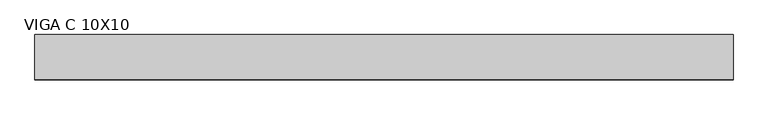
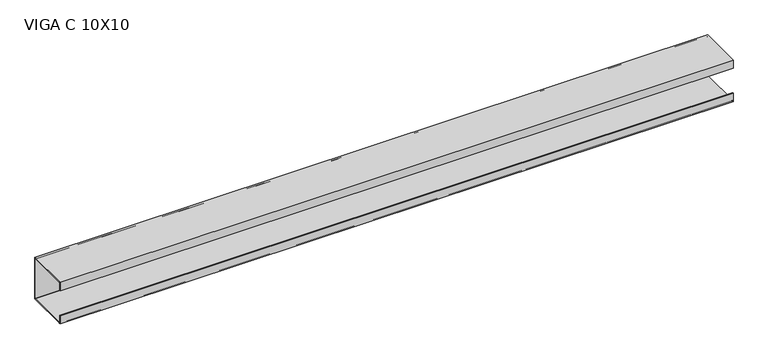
"""IFC4 building model written with IfcOpenShell, lengths in millimetres: beam geometry, VIGA PERFIL C AÇO : VIGA C 10X10."""

from ifc_helpers import new_model, si_unit, point, frame, frame_2d, origin, place, context, project, spatial, polyline, circle_curve, trimmed, segment, composite_curve, outline, extrude, source, transform, mapped, element, save


def viga_c_10x10_cf55ce63(model_context):
    return source(origin(), model_context, "Body", "SweptSolid", [
        extrude(outline(polyline([(9.2, -50.0), (-90.8, -50.0), (-90.8, -30.0), (-88.9, -30.0), (-88.9, -48.1), (7.3, -48.1), (7.3, 48.1), (-88.9, 48.1), (-88.9, 30.0), (-90.8, 30.0), (-90.8, 50.0), (9.2, 50.0), (9.2, -50.0)])), frame((-741.0, 0.0, 0.0), z_axis=(1.0, 0.0, 0.0), x_axis=(0.0, 1.0, 0.0)), (0.0, 0.0, 1.0), 1533.0),
        extrude(outline(composite_curve([segment(trimmed(circle_curve(frame_2d((5.4, -46.2)), 3.8), [point((9.2, -46.2))], [point((5.4, -50.0))], False, "CARTESIAN"), True, "CONTINUOUS"), segment(polyline([(5.4, -50.0), (-87.0, -50.0)]), True, "CONTINUOUS"), segment(trimmed(circle_curve(frame_2d((-87.0, -46.2)), 3.8), [point((-87.0, -50.0))], [point((-90.8, -46.2))], False, "CARTESIAN"), True, "CONTINUOUS"), segment(polyline([(-90.8, -46.2), (-90.8, -30.0), (-88.9, -30.0), (-88.9, -46.2)]), True, "CONTINUOUS"), segment(trimmed(circle_curve(frame_2d((-87.0, -46.2)), 1.9), [point((-88.9, -46.2))], [point((-87.0, -48.1))], True, "CARTESIAN"), True, "CONTINUOUS"), segment(polyline([(-87.0, -48.1), (5.4, -48.1)]), True, "CONTINUOUS"), segment(trimmed(circle_curve(frame_2d((5.4, -46.2)), 1.9), [point((5.4, -48.1))], [point((7.3, -46.2))], True, "CARTESIAN"), True, "CONTINUOUS"), segment(polyline([(7.3, -46.2), (7.3, 46.2)]), True, "CONTINUOUS"), segment(trimmed(circle_curve(frame_2d((5.4, 46.2)), 1.9), [point((7.3, 46.2))], [point((5.4, 48.1))], True, "CARTESIAN"), True, "CONTINUOUS"), segment(polyline([(5.4, 48.1), (-87.0, 48.1)]), True, "CONTINUOUS"), segment(trimmed(circle_curve(frame_2d((-87.0, 46.2)), 1.9), [point((-87.0, 48.1))], [point((-88.9, 46.2))], True, "CARTESIAN"), True, "CONTINUOUS"), segment(polyline([(-88.9, 46.2), (-88.9, 30.0), (-90.8, 30.0), (-90.8, 46.2)]), True, "CONTINUOUS"), segment(trimmed(circle_curve(frame_2d((-87.0, 46.2)), 3.8), [point((-90.8, 46.2))], [point((-87.0, 50.0))], False, "CARTESIAN"), True, "CONTINUOUS"), segment(polyline([(-87.0, 50.0), (5.4, 50.0)]), True, "CONTINUOUS"), segment(trimmed(circle_curve(frame_2d((5.4, 46.2)), 3.8), [point((5.4, 50.0))], [point((9.2, 46.2))], False, "CARTESIAN"), True, "CONTINUOUS"), segment(polyline([(9.2, 46.2), (9.2, -46.2)]), True, "CONTINUOUS")], self_intersect=False)), frame((-741.0, 0.0, 0.0), z_axis=(1.0, 0.0, 0.0), x_axis=(0.0, 1.0, 0.0)), (0.0, 0.0, 1.0), 1533.0),
    ])


if __name__ == "__main__":
    model = new_model("IFC4")
    model_context = context("Model", 3, world=origin())
    ifc_project = project(units=[si_unit("LENGTHUNIT", "METRE", prefix="MILLI")], contexts=[model_context])
    site = spatial("IfcSite", under=ifc_project)
    building = spatial("IfcBuilding", under=site)
    placement = place(None, origin())
    viga_c_10x10_shape = viga_c_10x10_cf55ce63(model_context)
    element("IfcBeam", 1, ObjectType="VIGA PERFIL C AÇO : VIGA C 10X10", at=placement, inside=building, context=model_context, shape_type="MappedRepresentation", body=[
        mapped(viga_c_10x10_shape, transform((0.0, 0.0, 0.0), x_axis=(1.0, 0.0, 0.0), y_axis=(0.0, 1.0, 0.0), z_axis=(0.0, 0.0, 1.0))),
    ])
    save(model, "model.ifc")
